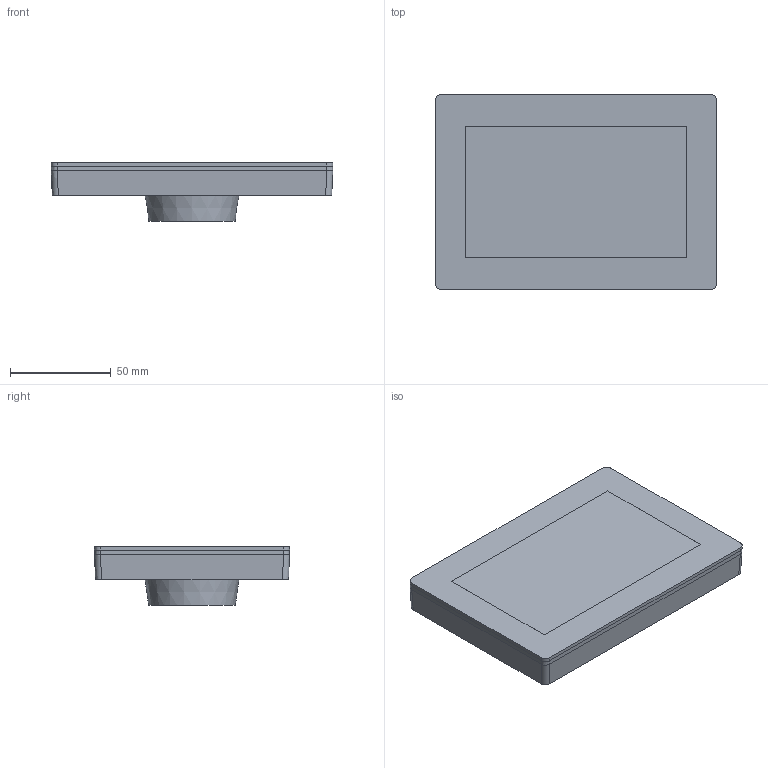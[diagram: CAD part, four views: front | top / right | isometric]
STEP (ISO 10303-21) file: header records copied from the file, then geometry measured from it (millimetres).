
FILE_DESCRIPTION(/* description */ ('STEP AP242','CAx-IF Rec.Pracs.---Representation and Presentation of Product Manufacturing Information (PMI)---4.0---2014-10-13','CAx-IF Rec.Pracs.---3D Tessellated Geometry---0.4---2014-09-14','2;1'),/* implementation_level */ '2;1');
FILE_NAME(/* name */ '6634dc6e7859092b1b9c27b8',/* time_stamp */ '2024-05-03T12:45:35Z',/* author */ (''),/* organization */ (''),/* preprocessor_version */ 'ST-DEVELOPER v20',/* originating_system */ ' ',/* authorisation */ ' ');
FILE_SCHEMA (('AP242_MANAGED_MODEL_BASED_3D_ENGINEERING_MIM_LF { 1 0 10303 442 1 1 4 }'));
Length unit declared in the file: metre
Products named in the file (1): Touch 8 W
Bounding box: 140 x 97 x 29.4 mm (x, y, z)
Volume: 242332 mm3; surface area: 36275.5 mm2
Topology: 1 solids, 1 shells, 51 faces, 119 edges, 74 vertices
Faces by surface type: plane 38, cone 5, cylinder 4, bspline 4
Entity records: 1504 total; most frequent: CARTESIAN_POINT 320, ORIENTED_EDGE 236, DIRECTION 232, EDGE_CURVE 118, LINE 100, VECTOR 100, VERTEX_POINT 74, AXIS2_PLACEMENT_3D 66
